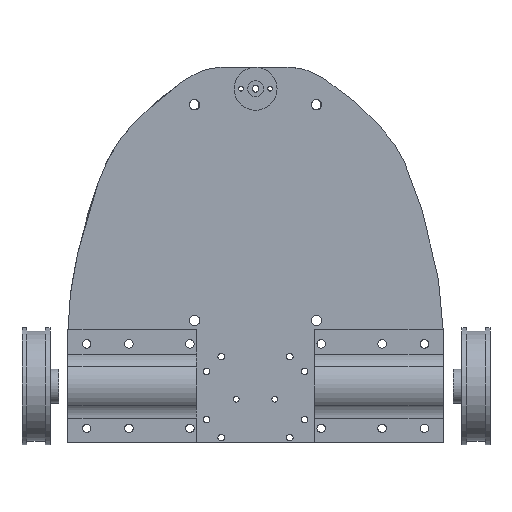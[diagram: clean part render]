
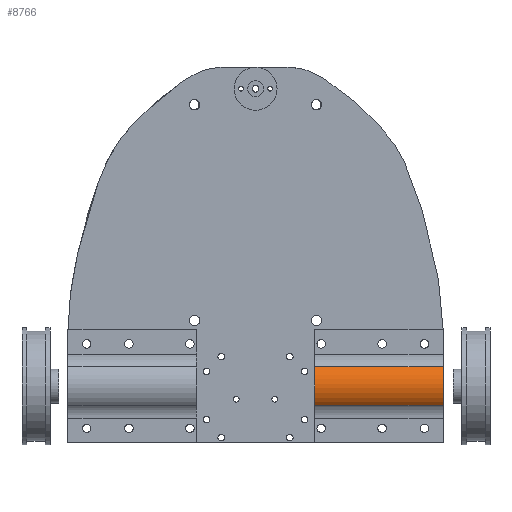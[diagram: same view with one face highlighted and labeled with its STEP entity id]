
A CAD part, top view. The second image highlights one B-rep face of the part: STEP entity #8766.
In plain terms, the highlighted cylindrical face has radius 14.841 mm (diameter 29.682 mm), a partial arc.
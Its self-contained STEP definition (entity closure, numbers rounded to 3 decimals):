
#533=CYLINDRICAL_SURFACE('',#9475,14.841);
#1052=CIRCLE('',#9436,14.841);
#1075=CIRCLE('',#9476,14.841);
#1548=FACE_OUTER_BOUND('',#2184,.T.);
#2184=EDGE_LOOP('',(#7875,#7876,#7877,#7878));
#2860=LINE('',#22885,#3430);
#2861=LINE('',#22889,#3431);
#3430=VECTOR('',#11324,10.);
#3431=VECTOR('',#11329,10.);
#4223=VERTEX_POINT('',#22791);
#4224=VERTEX_POINT('',#22793);
#4253=VERTEX_POINT('',#22883);
#4254=VERTEX_POINT('',#22887);
#5435=EDGE_CURVE('',#4223,#4224,#1052,.T.);
#5481=EDGE_CURVE('',#4223,#4253,#2860,.T.);
#5482=EDGE_CURVE('',#4254,#4253,#1075,.T.);
#5483=EDGE_CURVE('',#4224,#4254,#2861,.T.);
#7875=ORIENTED_EDGE('',*,*,#5481,.T.);
#7876=ORIENTED_EDGE('',*,*,#5482,.F.);
#7877=ORIENTED_EDGE('',*,*,#5483,.F.);
#7878=ORIENTED_EDGE('',*,*,#5435,.F.);
#8766=ADVANCED_FACE('',(#1548),#533,.T.);
#9436=AXIS2_PLACEMENT_3D('',#22794,#11223,#11224);
#9475=AXIS2_PLACEMENT_3D('',#22886,#11325,#11326);
#9476=AXIS2_PLACEMENT_3D('',#22888,#11327,#11328);
#11223=DIRECTION('center_axis',(1.,0.,0.));
#11224=DIRECTION('ref_axis',(0.,1.,0.));
#11324=DIRECTION('',(-1.,0.,0.));
#11325=DIRECTION('center_axis',(-1.,0.,0.));
#11326=DIRECTION('ref_axis',(0.,1.,0.));
#11327=DIRECTION('center_axis',(-1.,0.,0.));
#11328=DIRECTION('ref_axis',(0.,1.,0.));
#11329=DIRECTION('',(-1.,0.,0.));
#22791=CARTESIAN_POINT('',(100.,-59.772,10.754));
#22793=CARTESIAN_POINT('',(100.,-80.228,10.754));
#22794=CARTESIAN_POINT('Origin',(100.,-70.,0.));
#22883=CARTESIAN_POINT('',(31.55,-59.772,10.754));
#22885=CARTESIAN_POINT('',(32.5,-59.772,10.754));
#22886=CARTESIAN_POINT('Origin',(32.5,-70.,0.));
#22887=CARTESIAN_POINT('',(31.55,-80.228,10.754));
#22888=CARTESIAN_POINT('Origin',(31.55,-70.,0.));
#22889=CARTESIAN_POINT('',(32.5,-80.228,10.754));
